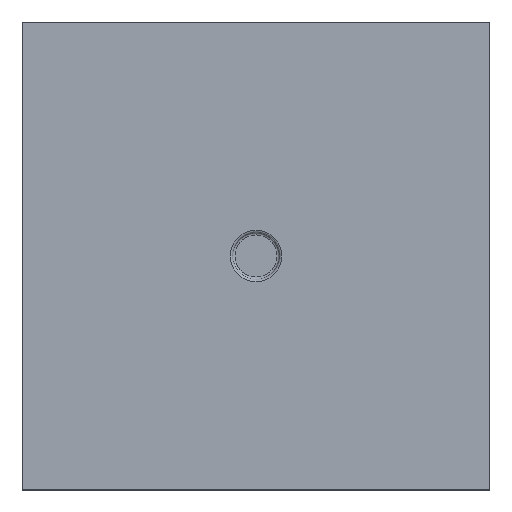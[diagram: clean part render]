
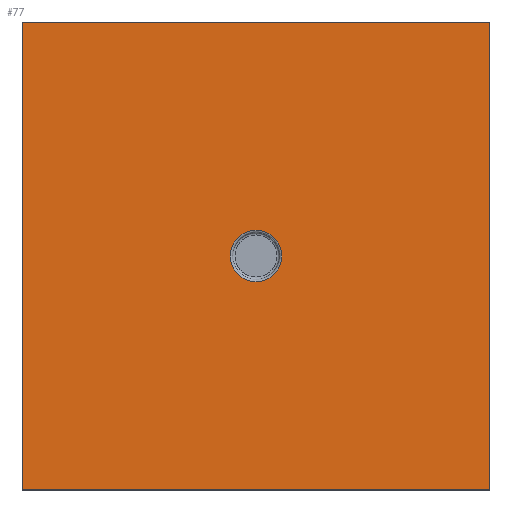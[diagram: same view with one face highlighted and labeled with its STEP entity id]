
A CAD part, top view. The second image highlights one B-rep face of the part: STEP entity #77.
In plain terms, the highlighted planar face has unit normal (0, 0, 1).
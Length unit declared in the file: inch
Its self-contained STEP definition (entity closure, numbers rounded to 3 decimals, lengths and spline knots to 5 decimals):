
#77=ADVANCED_FACE('',(#91,#92),#93,.F.);
#91=FACE_OUTER_BOUND('',#118,.T.);
#92=FACE_BOUND('',#119,.T.);
#93=PLANE('',#120);
#118=EDGE_LOOP('',(#155,#156,#157,#158));
#119=EDGE_LOOP('',(#159));
#120=AXIS2_PLACEMENT_3D('',#160,#161,#162);
#155=ORIENTED_EDGE('',*,*,#209,.T.);
#156=ORIENTED_EDGE('',*,*,#215,.T.);
#157=ORIENTED_EDGE('',*,*,#216,.T.);
#158=ORIENTED_EDGE('',*,*,#212,.T.);
#159=ORIENTED_EDGE('',*,*,#217,.T.);
#160=CARTESIAN_POINT('',(-8.40399,0.0,-0.036));
#161=DIRECTION('',(0.,0.0,-1.0));
#162=DIRECTION('',(-1.0,0.0,0.));
#209=EDGE_CURVE('',#228,#225,#229,.T.);
#212=EDGE_CURVE('',#233,#228,#234,.T.);
#215=EDGE_CURVE('',#225,#238,#239,.T.);
#216=EDGE_CURVE('',#238,#233,#240,.T.);
#217=EDGE_CURVE('',#241,#241,#242,.T.);
#225=VERTEX_POINT('',#255);
#228=VERTEX_POINT('',#259);
#229=LINE('',#260,#261);
#233=VERTEX_POINT('',#267);
#234=LINE('',#268,#269);
#238=VERTEX_POINT('',#275);
#239=LINE('',#276,#277);
#240=LINE('',#278,#279);
#241=VERTEX_POINT('',#280);
#242=CIRCLE('',#281,0.11);
#255=CARTESIAN_POINT('',(-3.92029,0.07465,-0.036));
#259=CARTESIAN_POINT('',(-3.92029,2.07465,-0.036));
#260=CARTESIAN_POINT('',(-3.92029,7469.06041,-0.036));
#261=VECTOR('',#298,1.0);
#267=CARTESIAN_POINT('',(-1.92029,2.07465,-0.036));
#268=CARTESIAN_POINT('',(-9926.77427,2.07465,-0.036));
#269=VECTOR('',#301,1.0);
#275=CARTESIAN_POINT('',(-1.92029,0.07465,-0.036));
#276=CARTESIAN_POINT('',(-12572.92429,0.07465,-0.036));
#277=VECTOR('',#304,1.0);
#278=CARTESIAN_POINT('',(-1.92029,2478.35214,-0.036));
#279=VECTOR('',#305,1.0);
#280=CARTESIAN_POINT('',(-2.81029,1.07465,-0.036));
#281=AXIS2_PLACEMENT_3D('',#306,#307,#308);
#298=DIRECTION('',(-0.0,-1.0,0.0));
#301=DIRECTION('',(-1.0,0.0,0.));
#304=DIRECTION('',(1.0,0.0,0.));
#305=DIRECTION('',(0.0,1.0,0.0));
#306=CARTESIAN_POINT('',(-2.92029,1.07465,-0.036));
#307=DIRECTION('',(0.,0.0,-1.0));
#308=DIRECTION('',(-1.0,0.,0.));
